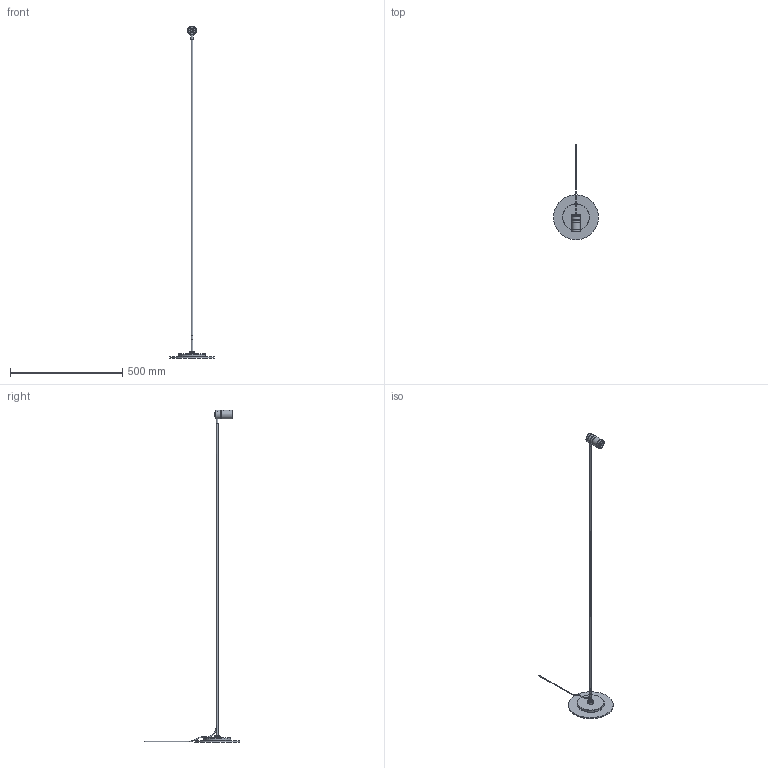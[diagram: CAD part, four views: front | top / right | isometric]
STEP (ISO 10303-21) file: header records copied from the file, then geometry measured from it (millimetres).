
FILE_DESCRIPTION(/* description */ (''),/* implementation_level */ '2;1');
FILE_NAME(/* name */ 'ASM SEAFLOWER v7.step',/* time_stamp */ '2023-03-14T17:18:39+01:00',/* author */ (''),/* organization */ (''),/* preprocessor_version */ 'ST-DEVELOPER v19.2',/* originating_system */ 'Autodesk Translation Framework v11.17.0.187',/* authorisation */ '');
FILE_SCHEMA (('AUTOMOTIVE_DESIGN { 1 0 10303 214 3 1 1 }'));
Length unit declared in the file: millimetre
Products named in the file (10): ASM SEAFLOWER; Rayconn - ALT40 - Braccio 20; SPOT; ARM; COB LENS; LED PCB v12; LAMIERA LED SUPERIORE v12; LED GROUP; LED (1); ANTIGLARE
Assembly tree (9 placements, depth 5):
  ASM SEAFLOWER
    Rayconn - ALT40 - Braccio 20
      SPOT
      ARM
      COB LENS
      LED PCB v12
        LAMIERA LED SUPERIORE v12
        LED GROUP
          LED (1)
      ANTIGLARE
Bounding box: 200 x 425.33 x 1480 mm (x, y, z)
Volume: 445038.2 mm3; surface area: 186151.8 mm2
Topology: 12 solids, 12 shells, 426 faces, 905 edges, 517 vertices
Faces by surface type: cylinder 157, torus 103, plane 100, sphere 48, bspline 11, cone 7
Full cylindrical faces by diameter (mm): 3.5 x5, 5 x1, 8 x2, 9 x1, 10 x1, 18 x1, 25 x1, 26 x1, 34 x2, 36 x2, 40 x2, 120 x1, 200 x1
Entity records: 12583 total; most frequent: CARTESIAN_POINT 2756, DIRECTION 2286, ORIENTED_EDGE 1802, AXIS2_PLACEMENT_3D 972, EDGE_CURVE 901, CIRCLE 534, VERTEX_POINT 517, EDGE_LOOP 454
